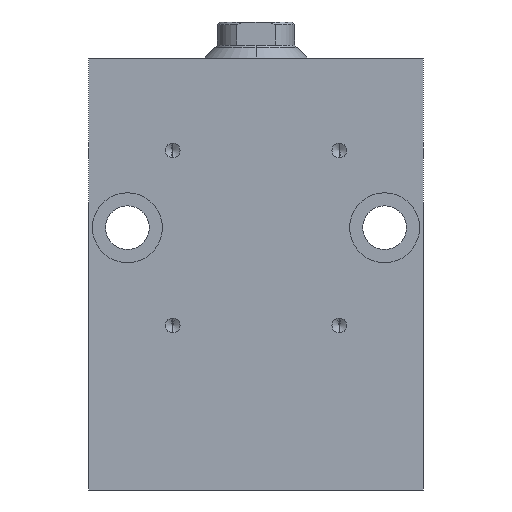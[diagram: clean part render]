
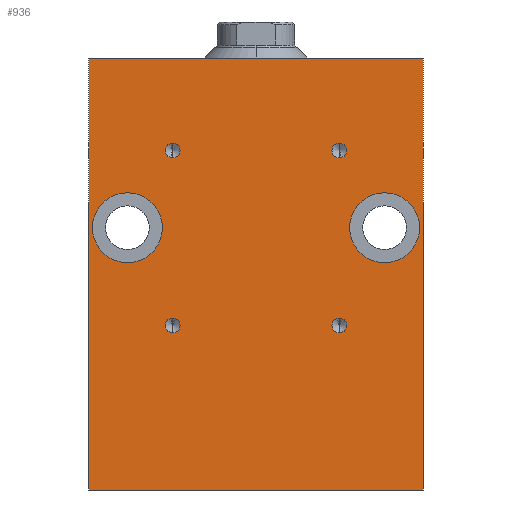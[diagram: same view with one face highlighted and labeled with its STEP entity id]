
A CAD part, left-side view. The second image highlights one B-rep face of the part: STEP entity #936.
In plain terms, the highlighted planar face has unit normal (-1, 0, 0).
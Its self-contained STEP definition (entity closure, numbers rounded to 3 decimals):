
#3 = CIRCLE ( 'NONE', #618, 6.8 ) ;
#16 = DIRECTION ( 'NONE',  ( 0., 0., -1. ) ) ;
#101 = CARTESIAN_POINT ( 'NONE',  ( -22.5, -25., -40. ) ) ;
#199 = EDGE_CURVE ( 'NONE', #4283, #2509, #2016, .T. ) ;
#222 = DIRECTION ( 'NONE',  ( -1., 0., 0. ) ) ;
#284 = CARTESIAN_POINT ( 'NONE',  ( -22.5, -32.5, -7. ) ) ;
#297 = ORIENTED_EDGE ( 'NONE', *, *, #4404, .F. ) ;
#321 = LINE ( 'NONE', #4818, #3780 ) ;
#359 = DIRECTION ( 'NONE',  ( 0., 0., -1. ) ) ;
#377 = ORIENTED_EDGE ( 'NONE', *, *, #3046, .F. ) ;
#378 = CARTESIAN_POINT ( 'NONE',  ( -22.5, 25., -40. ) ) ;
#385 = CIRCLE ( 'NONE', #3531, 1.425 ) ;
#387 = CIRCLE ( 'NONE', #1950, 1.425 ) ;
#418 = CARTESIAN_POINT ( 'NONE',  ( -22.5, 25., -46.8 ) ) ;
#446 = CARTESIAN_POINT ( 'NONE',  ( -22.5, -25., -33.2 ) ) ;
#485 = ORIENTED_EDGE ( 'NONE', *, *, #1109, .F. ) ;
#511 = ORIENTED_EDGE ( 'NONE', *, *, #4040, .F. ) ;
#611 = DIRECTION ( 'NONE',  ( -1., 0., 0. ) ) ;
#618 = AXIS2_PLACEMENT_3D ( 'NONE', #3601, #611, #3625 ) ;
#656 = EDGE_CURVE ( 'NONE', #3661, #860, #3752, .T. ) ;
#664 = DIRECTION ( 'NONE',  ( -1., 0., 0. ) ) ;
#693 = AXIS2_PLACEMENT_3D ( 'NONE', #378, #664, #16 ) ;
#710 = ORIENTED_EDGE ( 'NONE', *, *, #4445, .F. ) ;
#798 = CARTESIAN_POINT ( 'NONE',  ( -22.5, -16.2, -60.425 ) ) ;
#804 = CIRCLE ( 'NONE', #1827, 1.425 ) ;
#860 = VERTEX_POINT ( 'NONE', #284 ) ;
#882 = CARTESIAN_POINT ( 'NONE',  ( -22.5, -16.2, -59. ) ) ;
#886 = CARTESIAN_POINT ( 'NONE',  ( -22.5, -16.2, -26.425 ) ) ;
#936 = ADVANCED_FACE ( 'NONE', ( #3699, #1362, #3334, #1037, #3264, #2865, #2533 ), #1451, .T. ) ;
#949 = CIRCLE ( 'NONE', #1490, 1.425 ) ;
#963 = CARTESIAN_POINT ( 'NONE',  ( -22.5, 16.2, -23.575 ) ) ;
#982 = AXIS2_PLACEMENT_3D ( 'NONE', #1688, #222, #3933 ) ;
#989 = DIRECTION ( 'NONE',  ( 0., 0., 1. ) ) ;
#1037 = FACE_BOUND ( 'NONE', #2136, .T. ) ;
#1109 = EDGE_CURVE ( 'NONE', #4045, #1817, #3871, .T. ) ;
#1180 = CARTESIAN_POINT ( 'NONE',  ( -22.5, 25., -33.2 ) ) ;
#1194 = DIRECTION ( 'NONE',  ( -1., 0., 0. ) ) ;
#1196 = CIRCLE ( 'NONE', #4292, 1.425 ) ;
#1203 = VERTEX_POINT ( 'NONE', #1180 ) ;
#1275 = ORIENTED_EDGE ( 'NONE', *, *, #3435, .F. ) ;
#1308 = EDGE_LOOP ( 'NONE', ( #485, #710 ) ) ;
#1350 = VERTEX_POINT ( 'NONE', #3191 ) ;
#1351 = AXIS2_PLACEMENT_3D ( 'NONE', #4760, #2582, #2116 ) ;
#1362 = FACE_BOUND ( 'NONE', #1308, .T. ) ;
#1401 = CARTESIAN_POINT ( 'NONE',  ( -22.5, 25., -40. ) ) ;
#1451 = PLANE ( 'NONE',  #1351 ) ;
#1468 = EDGE_LOOP ( 'NONE', ( #2844, #511 ) ) ;
#1490 = AXIS2_PLACEMENT_3D ( 'NONE', #3666, #3694, #4846 ) ;
#1590 = DIRECTION ( 'NONE',  ( -1., 0., 0. ) ) ;
#1688 = CARTESIAN_POINT ( 'NONE',  ( -22.5, 16.2, -59. ) ) ;
#1707 = LINE ( 'NONE', #4735, #2419 ) ;
#1784 = CARTESIAN_POINT ( 'NONE',  ( -22.5, 16.2, -25. ) ) ;
#1786 = VERTEX_POINT ( 'NONE', #3378 ) ;
#1817 = VERTEX_POINT ( 'NONE', #886 ) ;
#1827 = AXIS2_PLACEMENT_3D ( 'NONE', #1784, #2176, #3965 ) ;
#1834 = DIRECTION ( 'NONE',  ( -1., 0., 0. ) ) ;
#1903 = VERTEX_POINT ( 'NONE', #446 ) ;
#1948 = CARTESIAN_POINT ( 'NONE',  ( -22.5, -16.2, -57.575 ) ) ;
#1950 = AXIS2_PLACEMENT_3D ( 'NONE', #2672, #1834, #3368 ) ;
#2016 = CIRCLE ( 'NONE', #982, 1.425 ) ;
#2057 = VECTOR ( 'NONE', #4159, 1000. ) ;
#2116 = DIRECTION ( 'NONE',  ( 0., 0., 1. ) ) ;
#2136 = EDGE_LOOP ( 'NONE', ( #2293, #4066 ) ) ;
#2176 = DIRECTION ( 'NONE',  ( -1., 0., 0. ) ) ;
#2209 = ORIENTED_EDGE ( 'NONE', *, *, #3310, .F. ) ;
#2224 = ORIENTED_EDGE ( 'NONE', *, *, #2867, .F. ) ;
#2293 = ORIENTED_EDGE ( 'NONE', *, *, #199, .F. ) ;
#2333 = AXIS2_PLACEMENT_3D ( 'NONE', #1401, #3017, #359 ) ;
#2419 = VECTOR ( 'NONE', #989, 1000. ) ;
#2509 = VERTEX_POINT ( 'NONE', #3994 ) ;
#2522 = EDGE_LOOP ( 'NONE', ( #2209, #3647 ) ) ;
#2533 = FACE_OUTER_BOUND ( 'NONE', #3964, .T. ) ;
#2568 = VERTEX_POINT ( 'NONE', #2580 ) ;
#2580 = CARTESIAN_POINT ( 'NONE',  ( -22.5, 16.2, -26.425 ) ) ;
#2582 = DIRECTION ( 'NONE',  ( -1., 0., 0. ) ) ;
#2640 = CARTESIAN_POINT ( 'NONE',  ( -22.5, -32.5, -91. ) ) ;
#2672 = CARTESIAN_POINT ( 'NONE',  ( -22.5, 16.2, -25. ) ) ;
#2721 = DIRECTION ( 'NONE',  ( 0., 0., -1. ) ) ;
#2745 = AXIS2_PLACEMENT_3D ( 'NONE', #3495, #3463, #3911 ) ;
#2776 = EDGE_CURVE ( 'NONE', #3098, #3602, #1196, .T. ) ;
#2780 = CARTESIAN_POINT ( 'NONE',  ( -22.5, -16.2, -25. ) ) ;
#2844 = ORIENTED_EDGE ( 'NONE', *, *, #3981, .F. ) ;
#2865 = FACE_BOUND ( 'NONE', #1468, .T. ) ;
#2867 = EDGE_CURVE ( 'NONE', #2568, #4377, #804, .T. ) ;
#2871 = DIRECTION ( 'NONE',  ( 0., 0., 1. ) ) ;
#2890 = DIRECTION ( 'NONE',  ( 0., -1., 0. ) ) ;
#2905 = CARTESIAN_POINT ( 'NONE',  ( -22.5, -16.2, -23.575 ) ) ;
#2915 = LINE ( 'NONE', #3897, #4585 ) ;
#3017 = DIRECTION ( 'NONE',  ( -1., 0., 0. ) ) ;
#3046 = EDGE_CURVE ( 'NONE', #4377, #2568, #387, .T. ) ;
#3052 = VERTEX_POINT ( 'NONE', #418 ) ;
#3058 = AXIS2_PLACEMENT_3D ( 'NONE', #101, #1590, #2721 ) ;
#3098 = VERTEX_POINT ( 'NONE', #798 ) ;
#3132 = EDGE_CURVE ( 'NONE', #2509, #4283, #3613, .T. ) ;
#3137 = CIRCLE ( 'NONE', #693, 6.8 ) ;
#3160 = CARTESIAN_POINT ( 'NONE',  ( -22.5, 16.2, -57.575 ) ) ;
#3191 = CARTESIAN_POINT ( 'NONE',  ( -22.5, -25., -46.8 ) ) ;
#3248 = CARTESIAN_POINT ( 'NONE',  ( -22.5, -16.2, -59. ) ) ;
#3264 = FACE_BOUND ( 'NONE', #2522, .T. ) ;
#3310 = EDGE_CURVE ( 'NONE', #1903, #1350, #4803, .T. ) ;
#3334 = FACE_BOUND ( 'NONE', #4145, .T. ) ;
#3349 = EDGE_LOOP ( 'NONE', ( #377, #2224 ) ) ;
#3368 = DIRECTION ( 'NONE',  ( 0., 0., 1. ) ) ;
#3378 = CARTESIAN_POINT ( 'NONE',  ( -22.5, 32.5, -7. ) ) ;
#3435 = EDGE_CURVE ( 'NONE', #3602, #3098, #385, .T. ) ;
#3463 = DIRECTION ( 'NONE',  ( -1., 0., 0. ) ) ;
#3495 = CARTESIAN_POINT ( 'NONE',  ( -22.5, 16.2, -59. ) ) ;
#3519 = VERTEX_POINT ( 'NONE', #4160 ) ;
#3531 = AXIS2_PLACEMENT_3D ( 'NONE', #3248, #4766, #2871 ) ;
#3601 = CARTESIAN_POINT ( 'NONE',  ( -22.5, -25., -40. ) ) ;
#3602 = VERTEX_POINT ( 'NONE', #1948 ) ;
#3613 = CIRCLE ( 'NONE', #2745, 1.425 ) ;
#3625 = DIRECTION ( 'NONE',  ( 0., 0., -1. ) ) ;
#3626 = ORIENTED_EDGE ( 'NONE', *, *, #656, .T. ) ;
#3647 = ORIENTED_EDGE ( 'NONE', *, *, #4312, .F. ) ;
#3661 = VERTEX_POINT ( 'NONE', #4289 ) ;
#3666 = CARTESIAN_POINT ( 'NONE',  ( -22.5, -16.2, -25. ) ) ;
#3694 = DIRECTION ( 'NONE',  ( -1., 0., 0. ) ) ;
#3699 = FACE_BOUND ( 'NONE', #3349, .T. ) ;
#3752 = LINE ( 'NONE', #2640, #2057 ) ;
#3780 = VECTOR ( 'NONE', #4525, 1000. ) ;
#3786 = EDGE_CURVE ( 'NONE', #3519, #1786, #1707, .T. ) ;
#3800 = ORIENTED_EDGE ( 'NONE', *, *, #2776, .F. ) ;
#3871 = CIRCLE ( 'NONE', #4591, 1.425 ) ;
#3897 = CARTESIAN_POINT ( 'NONE',  ( -22.5, 32.5, -91. ) ) ;
#3911 = DIRECTION ( 'NONE',  ( 0., 0., 1. ) ) ;
#3933 = DIRECTION ( 'NONE',  ( 0., 0., 1. ) ) ;
#3937 = DIRECTION ( 'NONE',  ( 0., 0., 1. ) ) ;
#3964 = EDGE_LOOP ( 'NONE', ( #297, #4519, #4220, #3626 ) ) ;
#3965 = DIRECTION ( 'NONE',  ( 0., 0., 1. ) ) ;
#3981 = EDGE_CURVE ( 'NONE', #1203, #3052, #4804, .T. ) ;
#3994 = CARTESIAN_POINT ( 'NONE',  ( -22.5, 16.2, -60.425 ) ) ;
#4040 = EDGE_CURVE ( 'NONE', #3052, #1203, #3137, .T. ) ;
#4045 = VERTEX_POINT ( 'NONE', #2905 ) ;
#4066 = ORIENTED_EDGE ( 'NONE', *, *, #3132, .F. ) ;
#4145 = EDGE_LOOP ( 'NONE', ( #1275, #3800 ) ) ;
#4159 = DIRECTION ( 'NONE',  ( 0., 0., 1. ) ) ;
#4160 = CARTESIAN_POINT ( 'NONE',  ( -22.5, 32.5, -91. ) ) ;
#4220 = ORIENTED_EDGE ( 'NONE', *, *, #4747, .T. ) ;
#4283 = VERTEX_POINT ( 'NONE', #3160 ) ;
#4289 = CARTESIAN_POINT ( 'NONE',  ( -22.5, -32.5, -91. ) ) ;
#4292 = AXIS2_PLACEMENT_3D ( 'NONE', #882, #1194, #3937 ) ;
#4298 = DIRECTION ( 'NONE',  ( -1., 0., 0. ) ) ;
#4312 = EDGE_CURVE ( 'NONE', #1350, #1903, #3, .T. ) ;
#4377 = VERTEX_POINT ( 'NONE', #963 ) ;
#4404 = EDGE_CURVE ( 'NONE', #1786, #860, #321, .T. ) ;
#4445 = EDGE_CURVE ( 'NONE', #1817, #4045, #949, .T. ) ;
#4519 = ORIENTED_EDGE ( 'NONE', *, *, #3786, .F. ) ;
#4525 = DIRECTION ( 'NONE',  ( 0., -1., 0. ) ) ;
#4585 = VECTOR ( 'NONE', #2890, 1000. ) ;
#4591 = AXIS2_PLACEMENT_3D ( 'NONE', #2780, #4298, #4694 ) ;
#4694 = DIRECTION ( 'NONE',  ( 0., 0., 1. ) ) ;
#4735 = CARTESIAN_POINT ( 'NONE',  ( -22.5, 32.5, -91. ) ) ;
#4747 = EDGE_CURVE ( 'NONE', #3519, #3661, #2915, .T. ) ;
#4760 = CARTESIAN_POINT ( 'NONE',  ( -22.5, 32.5, -91. ) ) ;
#4766 = DIRECTION ( 'NONE',  ( -1., 0., 0. ) ) ;
#4803 = CIRCLE ( 'NONE', #3058, 6.8 ) ;
#4804 = CIRCLE ( 'NONE', #2333, 6.8 ) ;
#4818 = CARTESIAN_POINT ( 'NONE',  ( -22.5, 32.5, -7. ) ) ;
#4846 = DIRECTION ( 'NONE',  ( 0., 0., 1. ) ) ;
